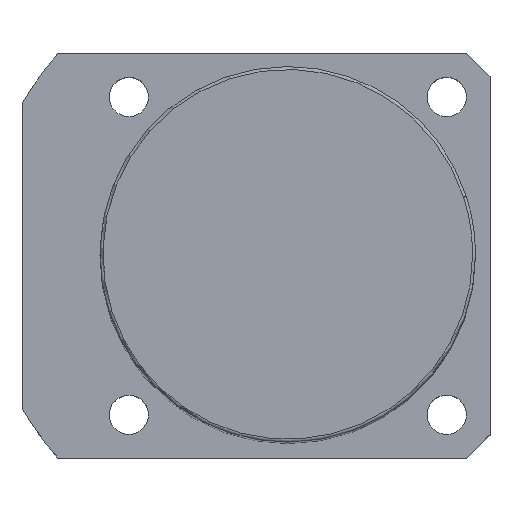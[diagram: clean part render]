
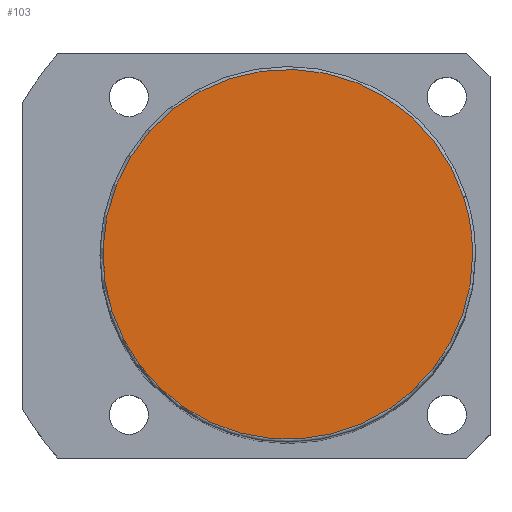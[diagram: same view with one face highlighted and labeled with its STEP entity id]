
A CAD part, top view. The second image highlights one B-rep face of the part: STEP entity #103.
In plain terms, the highlighted planar face has unit normal (0, 0, 1).
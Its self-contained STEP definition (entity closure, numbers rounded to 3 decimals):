
#16=CARTESIAN_POINT('',(-30.434,-9.889,166.0));
#17=VERTEX_POINT('',#16);
#54=CARTESIAN_POINT('',(30.434,9.889,166.0));
#55=VERTEX_POINT('',#54);
#63=CARTESIAN_POINT('',(32.0,0.0,166.0));
#64=VERTEX_POINT('',#63);
#65=CARTESIAN_POINT('',(0.0,0.0,166.0));
#66=DIRECTION('',(0.0,0.0,1.0));
#67=DIRECTION('',(1.0,0.0,0.0));
#68=AXIS2_PLACEMENT_3D('',#65,#66,#67);
#69=CIRCLE('',#68,32.0);
#70=EDGE_CURVE('no 898',#64,#55,#69,.T.);
#72=CARTESIAN_POINT('',(0.0,0.0,166.0));
#73=DIRECTION('',(0.0,0.0,1.0));
#74=DIRECTION('',(1.0,0.0,0.0));
#75=AXIS2_PLACEMENT_3D('',#72,#73,#74);
#76=CIRCLE('',#75,32.0);
#77=EDGE_CURVE('no 902',#17,#64,#76,.T.);
#87=ORIENTED_EDGE('',*,*,#70,.T.);
#88=CARTESIAN_POINT('',(0.0,0.0,166.0));
#89=DIRECTION('',(0.0,0.0,1.0));
#90=DIRECTION('',(1.0,0.0,0.0));
#91=AXIS2_PLACEMENT_3D('',#88,#89,#90);
#92=CIRCLE('',#91,32.0);
#93=EDGE_CURVE('no 911',#55,#17,#92,.T.);
#94=ORIENTED_EDGE('',*,*,#93,.T.);
#95=ORIENTED_EDGE('',*,*,#77,.T.);
#96=EDGE_LOOP('',(#87,#94,#95));
#97=FACE_OUTER_BOUND('',#96,.T.);
#98=CARTESIAN_POINT('',(0.0,0.0,166.0));
#99=DIRECTION('',(0.0,0.0,1.0));
#100=DIRECTION('',(1.0,0.0,0.0));
#101=AXIS2_PLACEMENT_3D('',#98,#99,#100);
#102=PLANE('',#101);
#103=ADVANCED_FACE('no 904',(#97),#102,.T.);
